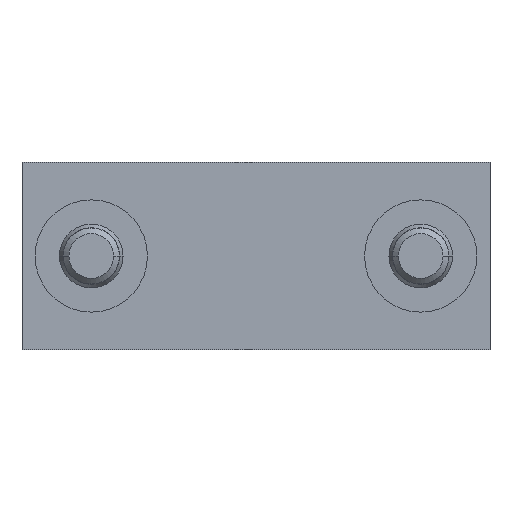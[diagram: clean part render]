
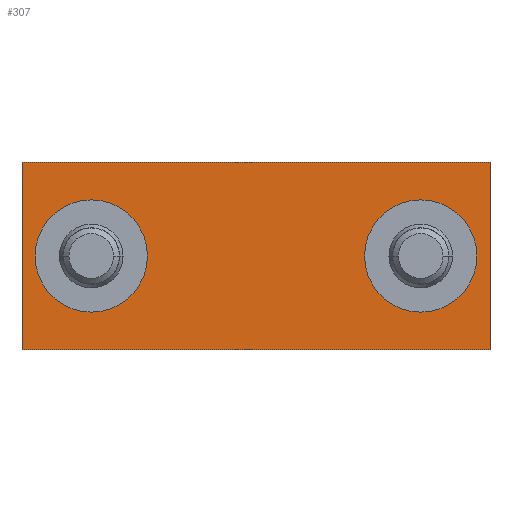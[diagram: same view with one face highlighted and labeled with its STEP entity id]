
A CAD part, front view. The second image highlights one B-rep face of the part: STEP entity #307.
In plain terms, the highlighted planar face has unit normal (0, -1, 0).
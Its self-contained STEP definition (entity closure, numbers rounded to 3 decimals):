
#307 = ADVANCED_FACE( '', ( #502, #503, #504 ), #505, .T. );
#502 = FACE_BOUND( '', #702, .T. );
#503 = FACE_BOUND( '', #703, .T. );
#504 = FACE_OUTER_BOUND( '', #704, .T. );
#505 = PLANE( '', #705 );
#702 = EDGE_LOOP( '', ( #1428, #1429 ) );
#703 = EDGE_LOOP( '', ( #1430, #1431 ) );
#704 = EDGE_LOOP( '', ( #1432, #1433, #1434, #1435 ) );
#705 = AXIS2_PLACEMENT_3D( '', #1436, #1437, #1438 );
#1428 = ORIENTED_EDGE( '', *, *, #1679, .T. );
#1429 = ORIENTED_EDGE( '', *, *, #1669, .T. );
#1430 = ORIENTED_EDGE( '', *, *, #1683, .T. );
#1431 = ORIENTED_EDGE( '', *, *, #1661, .T. );
#1432 = ORIENTED_EDGE( '', *, *, #1697, .T. );
#1433 = ORIENTED_EDGE( '', *, *, #1698, .F. );
#1434 = ORIENTED_EDGE( '', *, *, #1699, .F. );
#1435 = ORIENTED_EDGE( '', *, *, #1695, .T. );
#1436 = CARTESIAN_POINT( '', ( 12.5, -6.5, -5. ) );
#1437 = DIRECTION( '', ( 0., -1., 0. ) );
#1438 = DIRECTION( '', ( 1., 0., 0. ) );
#1661 = EDGE_CURVE( '', #2035, #2032, #2036, .T. );
#1669 = EDGE_CURVE( '', #2051, #2048, #2052, .T. );
#1679 = EDGE_CURVE( '', #2048, #2051, #2067, .T. );
#1683 = EDGE_CURVE( '', #2032, #2035, #2071, .T. );
#1695 = EDGE_CURVE( '', #2092, #2090, #2093, .T. );
#1697 = EDGE_CURVE( '', #2090, #2095, #2096, .T. );
#1698 = EDGE_CURVE( '', #2097, #2095, #2098, .T. );
#1699 = EDGE_CURVE( '', #2092, #2097, #2099, .T. );
#2032 = VERTEX_POINT( '', #2716 );
#2035 = VERTEX_POINT( '', #2720 );
#2036 = CIRCLE( '', #2721, 3. );
#2048 = VERTEX_POINT( '', #2736 );
#2051 = VERTEX_POINT( '', #2740 );
#2052 = CIRCLE( '', #2741, 3. );
#2067 = CIRCLE( '', #2759, 3. );
#2071 = CIRCLE( '', #2763, 3. );
#2090 = VERTEX_POINT( '', #2790 );
#2092 = VERTEX_POINT( '', #2793 );
#2093 = LINE( '', #2794, #2795 );
#2095 = VERTEX_POINT( '', #2798 );
#2096 = LINE( '', #2799, #2800 );
#2097 = VERTEX_POINT( '', #2801 );
#2098 = LINE( '', #2802, #2803 );
#2099 = LINE( '', #2804, #2805 );
#2716 = CARTESIAN_POINT( '', ( 11.8, -6.5, 0. ) );
#2720 = CARTESIAN_POINT( '', ( 5.8, -6.5, 0. ) );
#2721 = AXIS2_PLACEMENT_3D( '', #3191, #3192, #3193 );
#2736 = CARTESIAN_POINT( '', ( -5.8, -6.5, 0. ) );
#2740 = CARTESIAN_POINT( '', ( -11.8, -6.5, 0. ) );
#2741 = AXIS2_PLACEMENT_3D( '', #3207, #3208, #3209 );
#2759 = AXIS2_PLACEMENT_3D( '', #3231, #3232, #3233 );
#2763 = AXIS2_PLACEMENT_3D( '', #3243, #3244, #3245 );
#2790 = CARTESIAN_POINT( '', ( 12.5, -6.5, 5. ) );
#2793 = CARTESIAN_POINT( '', ( 12.5, -6.5, -5. ) );
#2794 = CARTESIAN_POINT( '', ( 12.5, -6.5, -5. ) );
#2795 = VECTOR( '', #3261, 1. );
#2798 = CARTESIAN_POINT( '', ( -12.5, -6.5, 5. ) );
#2799 = CARTESIAN_POINT( '', ( 12.5, -6.5, 5. ) );
#2800 = VECTOR( '', #3263, 1. );
#2801 = CARTESIAN_POINT( '', ( -12.5, -6.5, -5. ) );
#2802 = CARTESIAN_POINT( '', ( -12.5, -6.5, -5. ) );
#2803 = VECTOR( '', #3264, 1. );
#2804 = CARTESIAN_POINT( '', ( 12.5, -6.5, -5. ) );
#2805 = VECTOR( '', #3265, 1. );
#3191 = CARTESIAN_POINT( '', ( 8.8, -6.5, 0. ) );
#3192 = DIRECTION( '', ( 0., 1., 0. ) );
#3193 = DIRECTION( '', ( 1., 0., 0. ) );
#3207 = CARTESIAN_POINT( '', ( -8.8, -6.5, 0. ) );
#3208 = DIRECTION( '', ( 0., 1., 0. ) );
#3209 = DIRECTION( '', ( 1., 0., 0. ) );
#3231 = CARTESIAN_POINT( '', ( -8.8, -6.5, 0. ) );
#3232 = DIRECTION( '', ( 0., 1., 0. ) );
#3233 = DIRECTION( '', ( 1., 0., 0. ) );
#3243 = CARTESIAN_POINT( '', ( 8.8, -6.5, 0. ) );
#3244 = DIRECTION( '', ( 0., 1., 0. ) );
#3245 = DIRECTION( '', ( 1., 0., 0. ) );
#3261 = DIRECTION( '', ( 0., 0., 1. ) );
#3263 = DIRECTION( '', ( -1., 0., 0. ) );
#3264 = DIRECTION( '', ( 0., 0., 1. ) );
#3265 = DIRECTION( '', ( -1., 0., 0. ) );
